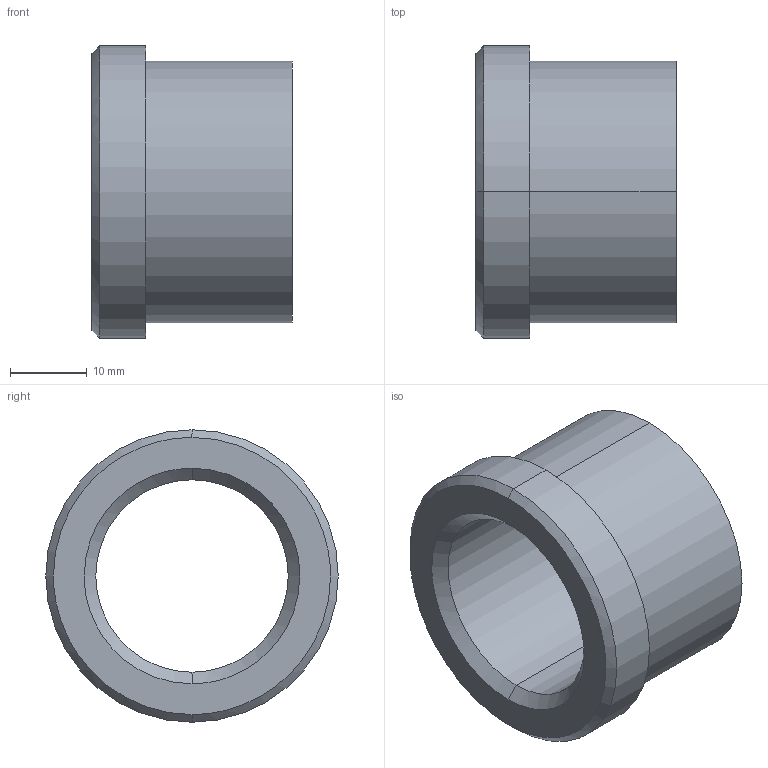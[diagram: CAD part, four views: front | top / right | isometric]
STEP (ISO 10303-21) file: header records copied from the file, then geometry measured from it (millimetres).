
FILE_DESCRIPTION(('CATIA V5 STEP Exchange'),'2;1');
FILE_NAME('C:\Users\Utente\Desktop\IO LAVORO\3D X SITO CF\X SITO\PLASTICA\353\353-25X26.stp','2021-05-12T18:47:43+00:00',('none'),('none'),'CATIA Version 5 Release 20 GA (IN-10)','CATIA V5 STEP AP203','none');
FILE_SCHEMA(('CONFIG_CONTROL_DESIGN'));
Length unit declared in the file: millimetre
Products named in the file (1): 353-25X26
Bounding box: 26 x 38 x 38 mm (x, y, z)
Volume: 12206.2 mm3; surface area: 5990.7 mm2
Topology: 1 solids, 1 shells, 15 faces, 48 edges, 36 vertices
Faces by surface type: cylinder 6, cone 4, plane 3, torus 2
Entity records: 680 total; most frequent: CARTESIAN_POINT 212, ORIENTED_EDGE 96, DIRECTION 70, EDGE_CURVE 48, AXIS2_PLACEMENT_3D 46, VERTEX_POINT 36, CIRCLE 30, EDGE_LOOP 18
